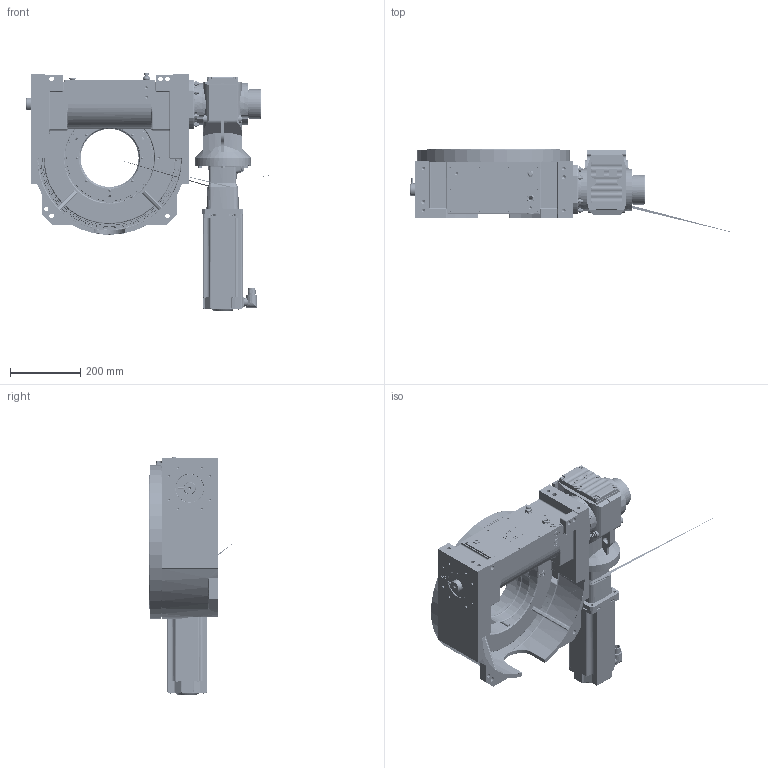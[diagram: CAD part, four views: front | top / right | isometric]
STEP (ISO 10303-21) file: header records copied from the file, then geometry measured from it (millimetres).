
FILE_DESCRIPTION(('CATIA V5 STEP Exchange'),'2;1');
FILE_NAME('M:\MOTION\Motion 2\2021\cad\RT160\TMF1000_KH47AQA115_MPMB1304.stp','2021-12-03T12:54:06+00:00',('none'),('none'),'CATIA Version 5 Release 18 GA (IN-10)','CATIA V5 STEP AP203','none');
FILE_SCHEMA(('CONFIG_CONTROL_DESIGN'));
Length unit declared in the file: millimetre
Products named in the file (1): TMF1000_KH47AQA115_MPMB1304
Bounding box: 945.35 x 243.22 x 678.88 mm (x, y, z)
Volume: 7607209 mm3; surface area: 2362649.6 mm2
Topology: 5 solids, 4146 shells, 5822 faces, 28844 edges, 27135 vertices
Faces by surface type: plane 1987, cylinder 1697, bspline 1123, cone 629, torus 274, revolution 62, sphere 50
Entity records: 348280 total; most frequent: CARTESIAN_POINT 151356, ORIENTED_EDGE 32933, EDGE_CURVE 28635, VERTEX_POINT 27135, DIRECTION 25536, B_SPLINE_CURVE_WITH_KNOTS 12497, AXIS2_PLACEMENT_3D 10733, VECTOR 10105
